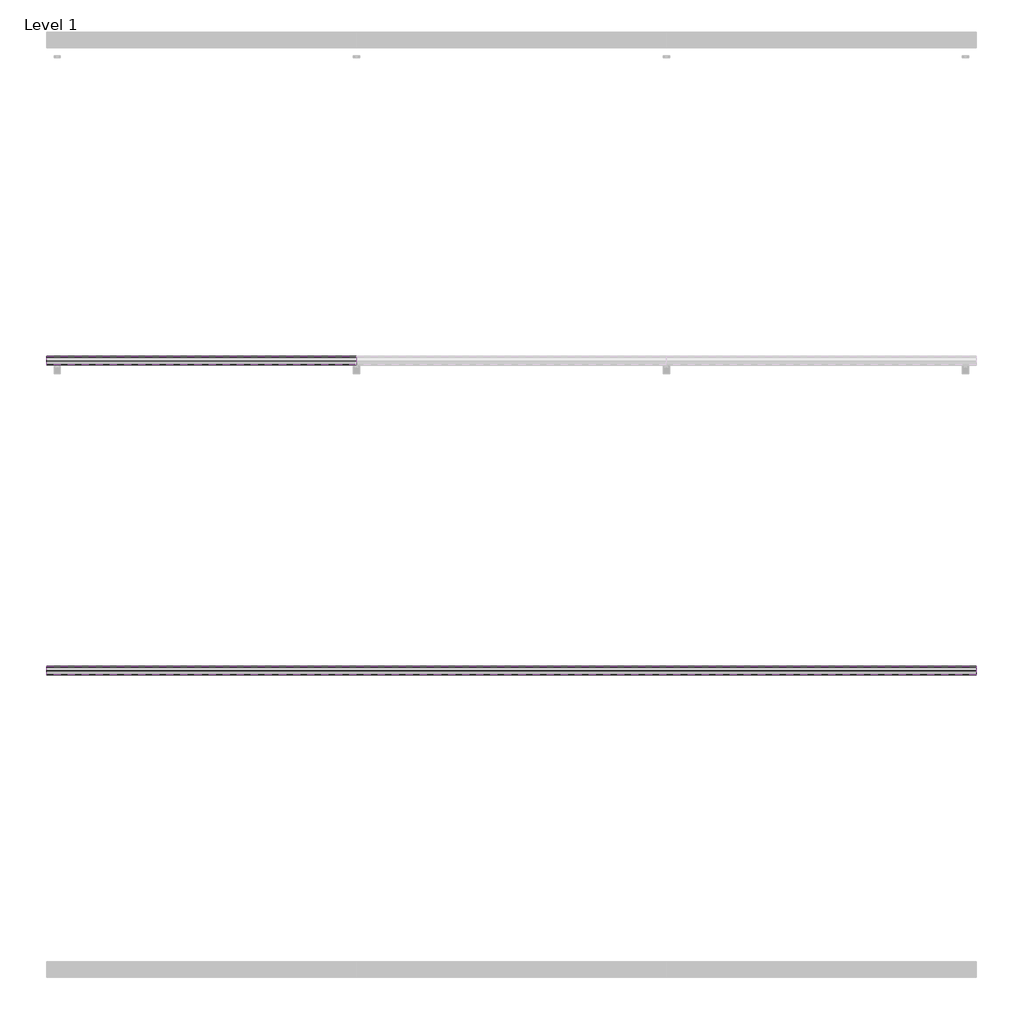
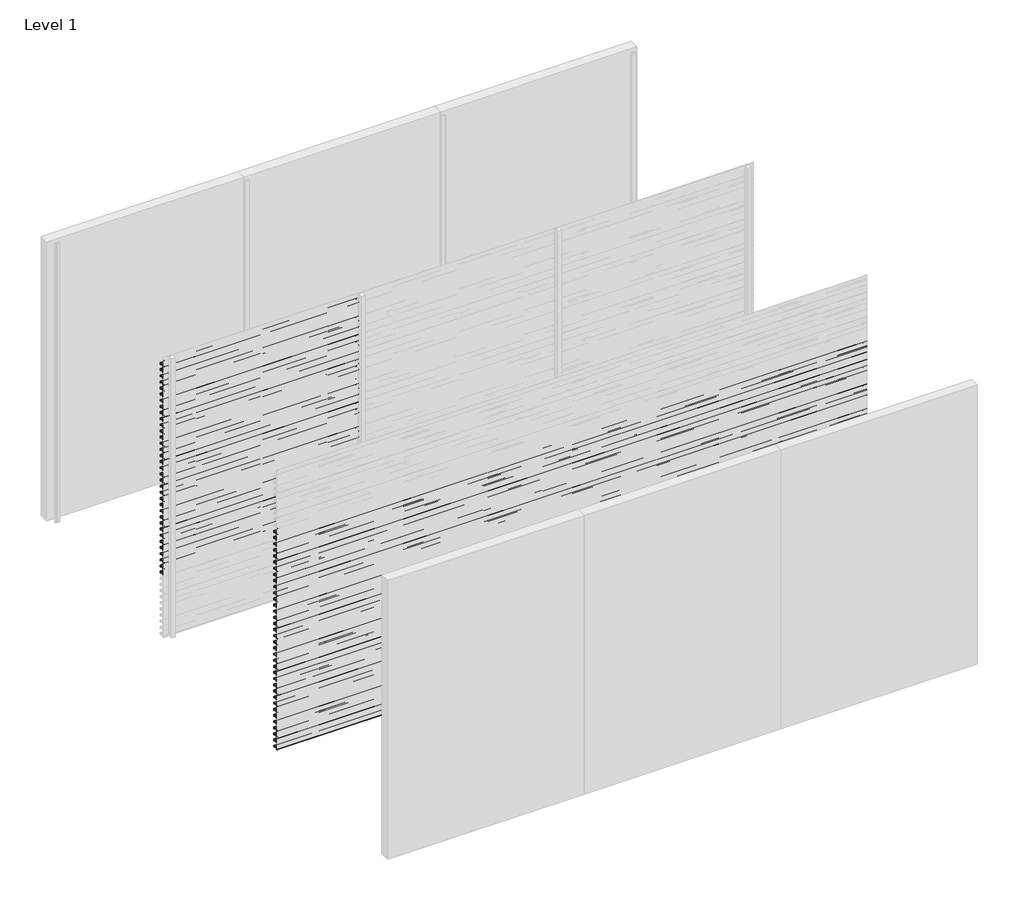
# One storey, part 13 of 27: 71 proxies.
"""IFC4 building model written with IfcOpenShell, lengths in millimetres."""

from ifc_helpers import new_model, si_unit, frame, origin, place, context, project, spatial, polyline, outline, extrude, element, save

model = new_model("IFC4")

# Units and contexts
model_context = context("Model", 3, world=origin())
ifc_project = project(units=[si_unit("LENGTHUNIT", "METRE", prefix="MILLI")], contexts=[model_context])

# Site, building, storey
site = spatial("IfcSite", under=ifc_project)
building = spatial("IfcBuilding", under=site)
storey = spatial("IfcBuildingStorey", under=building, Name="Level 1", Elevation=0.0)

# Proxies
placement = place(None, origin())
element("IfcBuildingElementProxy", 1, Name="Wall Sweeps", at=placement, inside=storey, context=model_context, shape_type="SweptSolid", body=[
    extrude(outline(polyline([(-29943.0, 2913.2), (-29943.0, 2893.5), (-29944.25, 2894.5866084), (-29944.25, 2912.4872415), (-29963.0322086, 2925.6010889), (-29995.1332975, 2893.5), (-29996.0525363, 2894.4192388), (-29964.1148087, 2926.3569665), (-29998.0, 2950.0158044), (-29998.0, 2970.0), (-29996.75, 2970.0), (-29996.75, 2950.7285629), (-29943.0, 2913.2)])), frame((0.0, 0.0, 0.0), z_axis=(1.0, 0.0, 0.0), x_axis=(0.0, 1.0, 0.0)), (0.0, 0.0, 1.0), 2000.0),
])
element("IfcBuildingElementProxy", 2, Name="Wall Sweeps", at=placement, inside=storey, context=model_context, shape_type="SweptSolid", body=[
    extrude(outline(polyline([(-29943.0, 2847.2), (-29943.0, 2827.5), (-29944.25, 2828.5866084), (-29944.25, 2846.4872415), (-29963.0322086, 2859.6010889), (-29995.1332975, 2827.5), (-29996.0525363, 2828.4192388), (-29964.1148087, 2860.3569665), (-29998.0, 2884.0158044), (-29998.0, 2904.0), (-29996.75, 2904.0), (-29996.75, 2884.7285629), (-29943.0, 2847.2)])), frame((0.0, 0.0, 0.0), z_axis=(1.0, 0.0, 0.0), x_axis=(0.0, 1.0, 0.0)), (0.0, 0.0, 1.0), 2000.0),
])
element("IfcBuildingElementProxy", 3, Name="Wall Sweeps", at=placement, inside=storey, context=model_context, shape_type="SweptSolid", body=[
    extrude(outline(polyline([(-29943.0, 2781.2), (-29943.0, 2761.5), (-29944.25, 2762.5866084), (-29944.25, 2780.4872415), (-29963.0322086, 2793.6010889), (-29995.1332975, 2761.5), (-29996.0525363, 2762.4192388), (-29964.1148087, 2794.3569665), (-29998.0, 2818.0158044), (-29998.0, 2838.0), (-29996.75, 2838.0), (-29996.75, 2818.7285629), (-29943.0, 2781.2)])), frame((0.0, 0.0, 0.0), z_axis=(1.0, 0.0, 0.0), x_axis=(0.0, 1.0, 0.0)), (0.0, 0.0, 1.0), 2000.0),
])
element("IfcBuildingElementProxy", 4, Name="Wall Sweeps", at=placement, inside=storey, context=model_context, shape_type="SweptSolid", body=[
    extrude(outline(polyline([(-29943.0, 2715.2), (-29943.0, 2695.5), (-29944.25, 2696.5866084), (-29944.25, 2714.4872415), (-29963.0322086, 2727.6010889), (-29995.1332975, 2695.5), (-29996.0525363, 2696.4192388), (-29964.1148087, 2728.3569665), (-29998.0, 2752.0158044), (-29998.0, 2772.0), (-29996.75, 2772.0), (-29996.75, 2752.7285629), (-29943.0, 2715.2)])), frame((0.0, 0.0, 0.0), z_axis=(1.0, 0.0, 0.0), x_axis=(0.0, 1.0, 0.0)), (0.0, 0.0, 1.0), 2000.0),
])
element("IfcBuildingElementProxy", 5, Name="Wall Sweeps", at=placement, inside=storey, context=model_context, shape_type="SweptSolid", body=[
    extrude(outline(polyline([(-29943.0, 2649.2), (-29943.0, 2629.5), (-29944.25, 2630.5866084), (-29944.25, 2648.4872415), (-29963.0322086, 2661.6010889), (-29995.1332975, 2629.5), (-29996.0525363, 2630.4192388), (-29964.1148087, 2662.3569665), (-29998.0, 2686.0158044), (-29998.0, 2706.0), (-29996.75, 2706.0), (-29996.75, 2686.7285629), (-29943.0, 2649.2)])), frame((0.0, 0.0, 0.0), z_axis=(1.0, 0.0, 0.0), x_axis=(0.0, 1.0, 0.0)), (0.0, 0.0, 1.0), 2000.0),
])
element("IfcBuildingElementProxy", 6, Name="Wall Sweeps", at=placement, inside=storey, context=model_context, shape_type="SweptSolid", body=[
    extrude(outline(polyline([(-29943.0, 2583.2), (-29943.0, 2563.5), (-29944.25, 2564.5866084), (-29944.25, 2582.4872415), (-29963.0322086, 2595.6010889), (-29995.1332975, 2563.5), (-29996.0525363, 2564.4192388), (-29964.1148087, 2596.3569665), (-29998.0, 2620.0158044), (-29998.0, 2640.0), (-29996.75, 2640.0), (-29996.75, 2620.7285629), (-29943.0, 2583.2)])), frame((0.0, 0.0, 0.0), z_axis=(1.0, 0.0, 0.0), x_axis=(0.0, 1.0, 0.0)), (0.0, 0.0, 1.0), 2000.0),
])
element("IfcBuildingElementProxy", 7, Name="Wall Sweeps", at=placement, inside=storey, context=model_context, shape_type="SweptSolid", body=[
    extrude(outline(polyline([(-29943.0, 2517.2), (-29943.0, 2497.5), (-29944.25, 2498.5866084), (-29944.25, 2516.4872415), (-29963.0322086, 2529.6010889), (-29995.1332975, 2497.5), (-29996.0525363, 2498.4192388), (-29964.1148087, 2530.3569665), (-29998.0, 2554.0158044), (-29998.0, 2574.0), (-29996.75, 2574.0), (-29996.75, 2554.7285629), (-29943.0, 2517.2)])), frame((0.0, 0.0, 0.0), z_axis=(1.0, 0.0, 0.0), x_axis=(0.0, 1.0, 0.0)), (0.0, 0.0, 1.0), 2000.0),
])
element("IfcBuildingElementProxy", 8, Name="Wall Sweeps", at=placement, inside=storey, context=model_context, shape_type="SweptSolid", body=[
    extrude(outline(polyline([(-29943.0, 2451.2), (-29943.0, 2431.5), (-29944.25, 2432.5866084), (-29944.25, 2450.4872415), (-29963.0322086, 2463.6010889), (-29995.1332975, 2431.5), (-29996.0525363, 2432.4192388), (-29964.1148087, 2464.3569665), (-29998.0, 2488.0158044), (-29998.0, 2508.0), (-29996.75, 2508.0), (-29996.75, 2488.7285629), (-29943.0, 2451.2)])), frame((0.0, 0.0, 0.0), z_axis=(1.0, 0.0, 0.0), x_axis=(0.0, 1.0, 0.0)), (0.0, 0.0, 1.0), 2000.0),
])
element("IfcBuildingElementProxy", 9, Name="Wall Sweeps", at=placement, inside=storey, context=model_context, shape_type="SweptSolid", body=[
    extrude(outline(polyline([(-29943.0, 2385.2), (-29943.0, 2365.5), (-29944.25, 2366.5866084), (-29944.25, 2384.4872415), (-29963.0322086, 2397.6010889), (-29995.1332975, 2365.5), (-29996.0525363, 2366.4192388), (-29964.1148087, 2398.3569665), (-29998.0, 2422.0158044), (-29998.0, 2442.0), (-29996.75, 2442.0), (-29996.75, 2422.7285629), (-29943.0, 2385.2)])), frame((0.0, 0.0, 0.0), z_axis=(1.0, 0.0, 0.0), x_axis=(0.0, 1.0, 0.0)), (0.0, 0.0, 1.0), 2000.0),
])
element("IfcBuildingElementProxy", 10, Name="Wall Sweeps", at=placement, inside=storey, context=model_context, shape_type="SweptSolid", body=[
    extrude(outline(polyline([(-29943.0, 2319.2), (-29943.0, 2299.5), (-29944.25, 2300.5866084), (-29944.25, 2318.4872415), (-29963.0322086, 2331.6010889), (-29995.1332975, 2299.5), (-29996.0525363, 2300.4192388), (-29964.1148087, 2332.3569665), (-29998.0, 2356.0158044), (-29998.0, 2376.0), (-29996.75, 2376.0), (-29996.75, 2356.7285629), (-29943.0, 2319.2)])), frame((0.0, 0.0, 0.0), z_axis=(1.0, 0.0, 0.0), x_axis=(0.0, 1.0, 0.0)), (0.0, 0.0, 1.0), 2000.0),
])
element("IfcBuildingElementProxy", 11, Name="Wall Sweeps", at=placement, inside=storey, context=model_context, shape_type="SweptSolid", body=[
    extrude(outline(polyline([(-29943.0, 2253.2), (-29943.0, 2233.5), (-29944.25, 2234.5866084), (-29944.25, 2252.4872415), (-29963.0322086, 2265.6010889), (-29995.1332975, 2233.5), (-29996.0525363, 2234.4192388), (-29964.1148087, 2266.3569665), (-29998.0, 2290.0158044), (-29998.0, 2310.0), (-29996.75, 2310.0), (-29996.75, 2290.7285629), (-29943.0, 2253.2)])), frame((0.0, 0.0, 0.0), z_axis=(1.0, 0.0, 0.0), x_axis=(0.0, 1.0, 0.0)), (0.0, 0.0, 1.0), 2000.0),
])
element("IfcBuildingElementProxy", 12, Name="Wall Sweeps", at=placement, inside=storey, context=model_context, shape_type="SweptSolid", body=[
    extrude(outline(polyline([(-29943.0, 2187.2), (-29943.0, 2167.5), (-29944.25, 2168.5866084), (-29944.25, 2186.4872415), (-29963.0322086, 2199.6010889), (-29995.1332975, 2167.5), (-29996.0525363, 2168.4192388), (-29964.1148087, 2200.3569665), (-29998.0, 2224.0158044), (-29998.0, 2244.0), (-29996.75, 2244.0), (-29996.75, 2224.7285629), (-29943.0, 2187.2)])), frame((0.0, 0.0, 0.0), z_axis=(1.0, 0.0, 0.0), x_axis=(0.0, 1.0, 0.0)), (0.0, 0.0, 1.0), 2000.0),
])
element("IfcBuildingElementProxy", 13, Name="Wall Sweeps", at=placement, inside=storey, context=model_context, shape_type="SweptSolid", body=[
    extrude(outline(polyline([(-29943.0, 2121.2), (-29943.0, 2101.5), (-29944.25, 2102.5866084), (-29944.25, 2120.4872415), (-29963.0322086, 2133.6010889), (-29995.1332975, 2101.5), (-29996.0525363, 2102.4192388), (-29964.1148087, 2134.3569665), (-29998.0, 2158.0158044), (-29998.0, 2178.0), (-29996.75, 2178.0), (-29996.75, 2158.7285629), (-29943.0, 2121.2)])), frame((0.0, 0.0, 0.0), z_axis=(1.0, 0.0, 0.0), x_axis=(0.0, 1.0, 0.0)), (0.0, 0.0, 1.0), 2000.0),
])
element("IfcBuildingElementProxy", 14, Name="Wall Sweeps", at=placement, inside=storey, context=model_context, shape_type="SweptSolid", body=[
    extrude(outline(polyline([(-29943.0, 2055.2), (-29943.0, 2035.5), (-29944.25, 2036.5866084), (-29944.25, 2054.4872415), (-29963.0322086, 2067.6010889), (-29995.1332975, 2035.5), (-29996.0525363, 2036.4192388), (-29964.1148087, 2068.3569665), (-29998.0, 2092.0158044), (-29998.0, 2112.0), (-29996.75, 2112.0), (-29996.75, 2092.7285629), (-29943.0, 2055.2)])), frame((0.0, 0.0, 0.0), z_axis=(1.0, 0.0, 0.0), x_axis=(0.0, 1.0, 0.0)), (0.0, 0.0, 1.0), 2000.0),
])
element("IfcBuildingElementProxy", 15, Name="Wall Sweeps", at=placement, inside=storey, context=model_context, shape_type="SweptSolid", body=[
    extrude(outline(polyline([(-29943.0, 1989.2), (-29943.0, 1969.5), (-29944.25, 1970.5866084), (-29944.25, 1988.4872415), (-29963.0322086, 2001.6010889), (-29995.1332975, 1969.5), (-29996.0525363, 1970.4192388), (-29964.1148087, 2002.3569665), (-29998.0, 2026.0158044), (-29998.0, 2046.0), (-29996.75, 2046.0), (-29996.75, 2026.7285629), (-29943.0, 1989.2)])), frame((0.0, 0.0, 0.0), z_axis=(1.0, 0.0, 0.0), x_axis=(0.0, 1.0, 0.0)), (0.0, 0.0, 1.0), 2000.0),
])
element("IfcBuildingElementProxy", 16, Name="Wall Sweeps", at=placement, inside=storey, context=model_context, shape_type="SweptSolid", body=[
    extrude(outline(polyline([(-29943.0, 1923.2), (-29943.0, 1903.5), (-29944.25, 1904.5866084), (-29944.25, 1922.4872415), (-29963.0322086, 1935.6010889), (-29995.1332975, 1903.5), (-29996.0525363, 1904.4192388), (-29964.1148087, 1936.3569665), (-29998.0, 1960.0158044), (-29998.0, 1980.0), (-29996.75, 1980.0), (-29996.75, 1960.7285629), (-29943.0, 1923.2)])), frame((0.0, 0.0, 0.0), z_axis=(1.0, 0.0, 0.0), x_axis=(0.0, 1.0, 0.0)), (0.0, 0.0, 1.0), 2000.0),
])
element("IfcBuildingElementProxy", 17, Name="Wall Sweeps", at=placement, inside=storey, context=model_context, shape_type="SweptSolid", body=[
    extrude(outline(polyline([(-29943.0, 1857.2), (-29943.0, 1837.5), (-29944.25, 1838.5866084), (-29944.25, 1856.4872415), (-29963.0322086, 1869.6010889), (-29995.1332975, 1837.5), (-29996.0525363, 1838.4192388), (-29964.1148087, 1870.3569665), (-29998.0, 1894.0158044), (-29998.0, 1914.0), (-29996.75, 1914.0), (-29996.75, 1894.7285629), (-29943.0, 1857.2)])), frame((0.0, 0.0, 0.0), z_axis=(1.0, 0.0, 0.0), x_axis=(0.0, 1.0, 0.0)), (0.0, 0.0, 1.0), 2000.0),
])
element("IfcBuildingElementProxy", 18, Name="Wall Sweeps", at=placement, inside=storey, context=model_context, shape_type="SweptSolid", body=[
    extrude(outline(polyline([(-29943.0, 1791.2), (-29943.0, 1771.5), (-29944.25, 1772.5866084), (-29944.25, 1790.4872415), (-29963.0322086, 1803.6010889), (-29995.1332975, 1771.5), (-29996.0525363, 1772.4192388), (-29964.1148087, 1804.3569665), (-29998.0, 1828.0158044), (-29998.0, 1848.0), (-29996.75, 1848.0), (-29996.75, 1828.7285629), (-29943.0, 1791.2)])), frame((0.0, 0.0, 0.0), z_axis=(1.0, 0.0, 0.0), x_axis=(0.0, 1.0, 0.0)), (0.0, 0.0, 1.0), 2000.0),
])
element("IfcBuildingElementProxy", 19, Name="Wall Sweeps", at=placement, inside=storey, context=model_context, shape_type="SweptSolid", body=[
    extrude(outline(polyline([(-29943.0, 1725.2), (-29943.0, 1705.5), (-29944.25, 1706.5866084), (-29944.25, 1724.4872415), (-29963.0322086, 1737.6010889), (-29995.1332975, 1705.5), (-29996.0525363, 1706.4192388), (-29964.1148087, 1738.3569665), (-29998.0, 1762.0158044), (-29998.0, 1782.0), (-29996.75, 1782.0), (-29996.75, 1762.7285629), (-29943.0, 1725.2)])), frame((0.0, 0.0, 0.0), z_axis=(1.0, 0.0, 0.0), x_axis=(0.0, 1.0, 0.0)), (0.0, 0.0, 1.0), 2000.0),
])
element("IfcBuildingElementProxy", 20, Name="Wall Sweeps", at=placement, inside=storey, context=model_context, shape_type="SweptSolid", body=[
    extrude(outline(polyline([(-29943.0, 1659.2), (-29943.0, 1639.5), (-29944.25, 1640.5866084), (-29944.25, 1658.4872415), (-29963.0322086, 1671.6010889), (-29995.1332975, 1639.5), (-29996.0525363, 1640.4192388), (-29964.1148087, 1672.3569665), (-29998.0, 1696.0158044), (-29998.0, 1716.0), (-29996.75, 1716.0), (-29996.75, 1696.7285629), (-29943.0, 1659.2)])), frame((0.0, 0.0, 0.0), z_axis=(1.0, 0.0, 0.0), x_axis=(0.0, 1.0, 0.0)), (0.0, 0.0, 1.0), 2000.0),
])
element("IfcBuildingElementProxy", 21, Name="Wall Sweeps", at=placement, inside=storey, context=model_context, shape_type="SweptSolid", body=[
    extrude(outline(polyline([(-29943.0, 1593.2), (-29943.0, 1573.5), (-29944.25, 1574.5866084), (-29944.25, 1592.4872415), (-29963.0322086, 1605.6010889), (-29995.1332975, 1573.5), (-29996.0525363, 1574.4192388), (-29964.1148087, 1606.3569665), (-29998.0, 1630.0158044), (-29998.0, 1650.0), (-29996.75, 1650.0), (-29996.75, 1630.7285629), (-29943.0, 1593.2)])), frame((0.0, 0.0, 0.0), z_axis=(1.0, 0.0, 0.0), x_axis=(0.0, 1.0, 0.0)), (0.0, 0.0, 1.0), 2000.0),
])
element("IfcBuildingElementProxy", 22, Name="Wall Sweeps", at=placement, inside=storey, context=model_context, shape_type="SweptSolid", body=[
    extrude(outline(polyline([(-29943.0, 1527.2), (-29943.0, 1507.5), (-29944.25, 1508.5866084), (-29944.25, 1526.4872415), (-29963.0322086, 1539.6010889), (-29995.1332975, 1507.5), (-29996.0525363, 1508.4192388), (-29964.1148087, 1540.3569665), (-29998.0, 1564.0158044), (-29998.0, 1584.0), (-29996.75, 1584.0), (-29996.75, 1564.7285629), (-29943.0, 1527.2)])), frame((0.0, 0.0, 0.0), z_axis=(1.0, 0.0, 0.0), x_axis=(0.0, 1.0, 0.0)), (0.0, 0.0, 1.0), 2000.0),
])
element("IfcBuildingElementProxy", 23, Name="Wall Sweeps", at=placement, inside=storey, context=model_context, shape_type="SweptSolid", body=[
    extrude(outline(polyline([(-29943.0, 1461.2), (-29943.0, 1441.5), (-29944.25, 1442.5866084), (-29944.25, 1460.4872415), (-29963.0322086, 1473.6010889), (-29995.1332975, 1441.5), (-29996.0525363, 1442.4192388), (-29964.1148087, 1474.3569665), (-29998.0, 1498.0158044), (-29998.0, 1518.0), (-29996.75, 1518.0), (-29996.75, 1498.7285629), (-29943.0, 1461.2)])), frame((0.0, 0.0, 0.0), z_axis=(1.0, 0.0, 0.0), x_axis=(0.0, 1.0, 0.0)), (0.0, 0.0, 1.0), 2000.0),
])
element("IfcBuildingElementProxy", 24, Name="Wall Sweeps", at=placement, inside=storey, context=model_context, shape_type="SweptSolid", body=[
    extrude(outline(polyline([(-29943.0, 1395.2), (-29943.0, 1375.5), (-29944.25, 1376.5866084), (-29944.25, 1394.4872415), (-29963.0322086, 1407.6010889), (-29995.1332975, 1375.5), (-29996.0525363, 1376.4192388), (-29964.1148087, 1408.3569665), (-29998.0, 1432.0158044), (-29998.0, 1452.0), (-29996.75, 1452.0), (-29996.75, 1432.7285629), (-29943.0, 1395.2)])), frame((0.0, 0.0, 0.0), z_axis=(1.0, 0.0, 0.0), x_axis=(0.0, 1.0, 0.0)), (0.0, 0.0, 1.0), 2000.0),
])
element("IfcBuildingElementProxy", 25, Name="Wall Sweeps", at=placement, inside=storey, context=model_context, shape_type="SweptSolid", body=[
    extrude(outline(polyline([(-29943.0, 1329.2), (-29943.0, 1309.5), (-29944.25, 1310.5866084), (-29944.25, 1328.4872415), (-29963.0322086, 1341.6010889), (-29995.1332975, 1309.5), (-29996.0525363, 1310.4192388), (-29964.1148087, 1342.3569665), (-29998.0, 1366.0158044), (-29998.0, 1386.0), (-29996.75, 1386.0), (-29996.75, 1366.7285629), (-29943.0, 1329.2)])), frame((0.0, 0.0, 0.0), z_axis=(1.0, 0.0, 0.0), x_axis=(0.0, 1.0, 0.0)), (0.0, 0.0, 1.0), 2000.0),
])
element("IfcBuildingElementProxy", 26, Name="Wall Sweeps", at=placement, inside=storey, context=model_context, shape_type="SweptSolid", body=[
    extrude(outline(polyline([(-29943.0, 1263.2), (-29943.0, 1243.5), (-29944.25, 1244.5866084), (-29944.25, 1262.4872415), (-29963.0322086, 1275.6010889), (-29995.1332975, 1243.5), (-29996.0525363, 1244.4192388), (-29964.1148087, 1276.3569665), (-29998.0, 1300.0158044), (-29998.0, 1320.0), (-29996.75, 1320.0), (-29996.75, 1300.7285629), (-29943.0, 1263.2)])), frame((0.0, 0.0, 0.0), z_axis=(1.0, 0.0, 0.0), x_axis=(0.0, 1.0, 0.0)), (0.0, 0.0, 1.0), 2000.0),
])
element("IfcBuildingElementProxy", 27, Name="Wall Sweeps", at=placement, inside=storey, context=model_context, shape_type="SweptSolid", body=[
    extrude(outline(polyline([(-29943.0, 1197.2), (-29943.0, 1177.5), (-29944.25, 1178.5866084), (-29944.25, 1196.4872415), (-29963.0322086, 1209.6010889), (-29995.1332975, 1177.5), (-29996.0525363, 1178.4192388), (-29964.1148087, 1210.3569665), (-29998.0, 1234.0158044), (-29998.0, 1254.0), (-29996.75, 1254.0), (-29996.75, 1234.7285629), (-29943.0, 1197.2)])), frame((0.0, 0.0, 0.0), z_axis=(1.0, 0.0, 0.0), x_axis=(0.0, 1.0, 0.0)), (0.0, 0.0, 1.0), 2000.0),
])
element("IfcBuildingElementProxy", 28, Name="Wall Sweeps", at=placement, inside=storey, context=model_context, shape_type="SweptSolid", body=[
    extrude(outline(polyline([(-29943.0, 1131.2), (-29943.0, 1111.5), (-29944.25, 1112.5866084), (-29944.25, 1130.4872415), (-29963.0322086, 1143.6010889), (-29995.1332975, 1111.5), (-29996.0525363, 1112.4192388), (-29964.1148087, 1144.3569665), (-29998.0, 1168.0158044), (-29998.0, 1188.0), (-29996.75, 1188.0), (-29996.75, 1168.7285629), (-29943.0, 1131.2)])), frame((0.0, 0.0, 0.0), z_axis=(1.0, 0.0, 0.0), x_axis=(0.0, 1.0, 0.0)), (0.0, 0.0, 1.0), 2000.0),
])
element("IfcBuildingElementProxy", 29, Name="Wall Sweeps", at=placement, inside=storey, context=model_context, shape_type="SweptSolid", body=[
    extrude(outline(polyline([(-29943.0, 1065.2), (-29943.0, 1045.5), (-29944.25, 1046.5866084), (-29944.25, 1064.4872415), (-29963.0322086, 1077.6010889), (-29995.1332975, 1045.5), (-29996.0525363, 1046.4192388), (-29964.1148087, 1078.3569665), (-29998.0, 1102.0158044), (-29998.0, 1122.0), (-29996.75, 1122.0), (-29996.75, 1102.7285629), (-29943.0, 1065.2)])), frame((0.0, 0.0, 0.0), z_axis=(1.0, 0.0, 0.0), x_axis=(0.0, 1.0, 0.0)), (0.0, 0.0, 1.0), 2000.0),
])
element("IfcBuildingElementProxy", 30, Name="Wall Sweeps", at=placement, inside=storey, context=model_context, shape_type="SweptSolid", body=[
    extrude(outline(polyline([(-29943.0, 999.2), (-29943.0, 979.5), (-29944.25, 980.5866084), (-29944.25, 998.4872415), (-29963.0322086, 1011.6010889), (-29995.1332975, 979.5), (-29996.0525363, 980.4192388), (-29964.1148087, 1012.3569665), (-29998.0, 1036.0158044), (-29998.0, 1056.0), (-29996.75, 1056.0), (-29996.75, 1036.7285629), (-29943.0, 999.2)])), frame((0.0, 0.0, 0.0), z_axis=(1.0, 0.0, 0.0), x_axis=(0.0, 1.0, 0.0)), (0.0, 0.0, 1.0), 2000.0),
])
element("IfcBuildingElementProxy", 31, Name="Wall Sweeps", at=placement, inside=storey, context=model_context, shape_type="SweptSolid", body=[
    extrude(outline(polyline([(-29943.0, 933.2), (-29943.0, 913.5), (-29944.25, 914.5866084), (-29944.25, 932.4872415), (-29963.0322086, 945.6010889), (-29995.1332975, 913.5), (-29996.0525363, 914.4192388), (-29964.1148087, 946.3569665), (-29998.0, 970.0158044), (-29998.0, 990.0), (-29996.75, 990.0), (-29996.75, 970.7285629), (-29943.0, 933.2)])), frame((0.0, 0.0, 0.0), z_axis=(1.0, 0.0, 0.0), x_axis=(0.0, 1.0, 0.0)), (0.0, 0.0, 1.0), 2000.0),
])
element("IfcBuildingElementProxy", 32, Name="Wall Sweeps", at=placement, inside=storey, context=model_context, shape_type="SweptSolid", body=[
    extrude(outline(polyline([(-29943.0, 867.2), (-29943.0, 847.5), (-29944.25, 848.5866084), (-29944.25, 866.4872415), (-29963.0322086, 879.6010889), (-29995.1332975, 847.5), (-29996.0525363, 848.4192388), (-29964.1148087, 880.3569665), (-29998.0, 904.0158044), (-29998.0, 924.0), (-29996.75, 924.0), (-29996.75, 904.7285629), (-29943.0, 867.2)])), frame((0.0, 0.0, 0.0), z_axis=(1.0, 0.0, 0.0), x_axis=(0.0, 1.0, 0.0)), (0.0, 0.0, 1.0), 2000.0),
])
element("IfcBuildingElementProxy", 33, Name="Wall Sweeps", at=placement, inside=storey, context=model_context, shape_type="SweptSolid", body=[
    extrude(outline(polyline([(-29943.0, 801.2), (-29943.0, 781.5), (-29944.25, 782.5866084), (-29944.25, 800.4872415), (-29963.0322086, 813.6010889), (-29995.1332975, 781.5), (-29996.0525363, 782.4192388), (-29964.1148087, 814.3569665), (-29998.0, 838.0158044), (-29998.0, 858.0), (-29996.75, 858.0), (-29996.75, 838.7285629), (-29943.0, 801.2)])), frame((0.0, 0.0, 0.0), z_axis=(1.0, 0.0, 0.0), x_axis=(0.0, 1.0, 0.0)), (0.0, 0.0, 1.0), 2000.0),
])
element("IfcBuildingElementProxy", 34, Name="Wall Sweeps", at=placement, inside=storey, context=model_context, shape_type="SweptSolid", body=[
    extrude(outline(polyline([(-29943.0, 735.2), (-29943.0, 715.5), (-29944.25, 716.5866084), (-29944.25, 734.4872415), (-29963.0322086, 747.6010889), (-29995.1332975, 715.5), (-29996.0525363, 716.4192388), (-29964.1148087, 748.3569665), (-29998.0, 772.0158044), (-29998.0, 792.0), (-29996.75, 792.0), (-29996.75, 772.7285629), (-29943.0, 735.2)])), frame((0.0, 0.0, 0.0), z_axis=(1.0, 0.0, 0.0), x_axis=(0.0, 1.0, 0.0)), (0.0, 0.0, 1.0), 2000.0),
])
element("IfcBuildingElementProxy", 35, Name="Wall Sweeps", at=placement, inside=storey, context=model_context, shape_type="SweptSolid", body=[
    extrude(outline(polyline([(-29943.0, 669.2), (-29943.0, 649.5), (-29944.25, 650.5866084), (-29944.25, 668.4872415), (-29963.0322086, 681.6010889), (-29995.1332975, 649.5), (-29996.0525363, 650.4192388), (-29964.1148087, 682.3569665), (-29998.0, 706.0158044), (-29998.0, 726.0), (-29996.75, 726.0), (-29996.75, 706.7285629), (-29943.0, 669.2)])), frame((0.0, 0.0, 0.0), z_axis=(1.0, 0.0, 0.0), x_axis=(0.0, 1.0, 0.0)), (0.0, 0.0, 1.0), 2000.0),
])
element("IfcBuildingElementProxy", 36, Name="Wall Sweeps", at=placement, inside=storey, context=model_context, shape_type="SweptSolid", body=[
    extrude(outline(polyline([(-31943.0, 2319.2), (-31943.0, 2299.5), (-31944.25, 2300.5866084), (-31944.25, 2318.4872415), (-31963.0322086, 2331.6010889), (-31995.1332975, 2299.5), (-31996.0525363, 2300.4192388), (-31964.1148087, 2332.3569665), (-31998.0, 2356.0158044), (-31998.0, 2376.0), (-31996.75, 2376.0), (-31996.75, 2356.7285629), (-31943.0, 2319.2)])), frame((0.0, 0.0, 0.0), z_axis=(1.0, 0.0, 0.0), x_axis=(0.0, 1.0, 0.0)), (0.0, 0.0, 1.0), 6000.0),
])
element("IfcBuildingElementProxy", 37, Name="Wall Sweeps", at=placement, inside=storey, context=model_context, shape_type="SweptSolid", body=[
    extrude(outline(polyline([(-31943.0, 2253.2), (-31943.0, 2233.5), (-31944.25, 2234.5866084), (-31944.25, 2252.4872415), (-31963.0322086, 2265.6010889), (-31995.1332975, 2233.5), (-31996.0525363, 2234.4192388), (-31964.1148087, 2266.3569665), (-31998.0, 2290.0158044), (-31998.0, 2310.0), (-31996.75, 2310.0), (-31996.75, 2290.7285629), (-31943.0, 2253.2)])), frame((0.0, 0.0, 0.0), z_axis=(1.0, 0.0, 0.0), x_axis=(0.0, 1.0, 0.0)), (0.0, 0.0, 1.0), 6000.0),
])
element("IfcBuildingElementProxy", 38, Name="Wall Sweeps", at=placement, inside=storey, context=model_context, shape_type="SweptSolid", body=[
    extrude(outline(polyline([(-31943.0, 2187.2), (-31943.0, 2167.5), (-31944.25, 2168.5866084), (-31944.25, 2186.4872415), (-31963.0322086, 2199.6010889), (-31995.1332975, 2167.5), (-31996.0525363, 2168.4192388), (-31964.1148087, 2200.3569665), (-31998.0, 2224.0158044), (-31998.0, 2244.0), (-31996.75, 2244.0), (-31996.75, 2224.7285629), (-31943.0, 2187.2)])), frame((0.0, 0.0, 0.0), z_axis=(1.0, 0.0, 0.0), x_axis=(0.0, 1.0, 0.0)), (0.0, 0.0, 1.0), 6000.0),
])
element("IfcBuildingElementProxy", 39, Name="Wall Sweeps", at=placement, inside=storey, context=model_context, shape_type="SweptSolid", body=[
    extrude(outline(polyline([(-31943.0, 2121.2), (-31943.0, 2101.5), (-31944.25, 2102.5866084), (-31944.25, 2120.4872415), (-31963.0322086, 2133.6010889), (-31995.1332975, 2101.5), (-31996.0525363, 2102.4192388), (-31964.1148087, 2134.3569665), (-31998.0, 2158.0158044), (-31998.0, 2178.0), (-31996.75, 2178.0), (-31996.75, 2158.7285629), (-31943.0, 2121.2)])), frame((0.0, 0.0, 0.0), z_axis=(1.0, 0.0, 0.0), x_axis=(0.0, 1.0, 0.0)), (0.0, 0.0, 1.0), 6000.0),
])
element("IfcBuildingElementProxy", 40, Name="Wall Sweeps", at=placement, inside=storey, context=model_context, shape_type="SweptSolid", body=[
    extrude(outline(polyline([(-31943.0, 2055.2), (-31943.0, 2035.5), (-31944.25, 2036.5866084), (-31944.25, 2054.4872415), (-31963.0322086, 2067.6010889), (-31995.1332975, 2035.5), (-31996.0525363, 2036.4192388), (-31964.1148087, 2068.3569665), (-31998.0, 2092.0158044), (-31998.0, 2112.0), (-31996.75, 2112.0), (-31996.75, 2092.7285629), (-31943.0, 2055.2)])), frame((0.0, 0.0, 0.0), z_axis=(1.0, 0.0, 0.0), x_axis=(0.0, 1.0, 0.0)), (0.0, 0.0, 1.0), 6000.0),
])
element("IfcBuildingElementProxy", 41, Name="Wall Sweeps", at=placement, inside=storey, context=model_context, shape_type="SweptSolid", body=[
    extrude(outline(polyline([(-31943.0, 1989.2), (-31943.0, 1969.5), (-31944.25, 1970.5866084), (-31944.25, 1988.4872415), (-31963.0322086, 2001.6010889), (-31995.1332975, 1969.5), (-31996.0525363, 1970.4192388), (-31964.1148087, 2002.3569665), (-31998.0, 2026.0158044), (-31998.0, 2046.0), (-31996.75, 2046.0), (-31996.75, 2026.7285629), (-31943.0, 1989.2)])), frame((0.0, 0.0, 0.0), z_axis=(1.0, 0.0, 0.0), x_axis=(0.0, 1.0, 0.0)), (0.0, 0.0, 1.0), 6000.0),
])
element("IfcBuildingElementProxy", 42, Name="Wall Sweeps", at=placement, inside=storey, context=model_context, shape_type="SweptSolid", body=[
    extrude(outline(polyline([(-31943.0, 1923.2), (-31943.0, 1903.5), (-31944.25, 1904.5866084), (-31944.25, 1922.4872415), (-31963.0322086, 1935.6010889), (-31995.1332975, 1903.5), (-31996.0525363, 1904.4192388), (-31964.1148087, 1936.3569665), (-31998.0, 1960.0158044), (-31998.0, 1980.0), (-31996.75, 1980.0), (-31996.75, 1960.7285629), (-31943.0, 1923.2)])), frame((0.0, 0.0, 0.0), z_axis=(1.0, 0.0, 0.0), x_axis=(0.0, 1.0, 0.0)), (0.0, 0.0, 1.0), 6000.0),
])
element("IfcBuildingElementProxy", 43, Name="Wall Sweeps", at=placement, inside=storey, context=model_context, shape_type="SweptSolid", body=[
    extrude(outline(polyline([(-31943.0, 1857.2), (-31943.0, 1837.5), (-31944.25, 1838.5866084), (-31944.25, 1856.4872415), (-31963.0322086, 1869.6010889), (-31995.1332975, 1837.5), (-31996.0525363, 1838.4192388), (-31964.1148087, 1870.3569665), (-31998.0, 1894.0158044), (-31998.0, 1914.0), (-31996.75, 1914.0), (-31996.75, 1894.7285629), (-31943.0, 1857.2)])), frame((0.0, 0.0, 0.0), z_axis=(1.0, 0.0, 0.0), x_axis=(0.0, 1.0, 0.0)), (0.0, 0.0, 1.0), 6000.0),
])
element("IfcBuildingElementProxy", 44, Name="Wall Sweeps", at=placement, inside=storey, context=model_context, shape_type="SweptSolid", body=[
    extrude(outline(polyline([(-31943.0, 1791.2), (-31943.0, 1771.5), (-31944.25, 1772.5866084), (-31944.25, 1790.4872415), (-31963.0322086, 1803.6010889), (-31995.1332975, 1771.5), (-31996.0525363, 1772.4192388), (-31964.1148087, 1804.3569665), (-31998.0, 1828.0158044), (-31998.0, 1848.0), (-31996.75, 1848.0), (-31996.75, 1828.7285629), (-31943.0, 1791.2)])), frame((0.0, 0.0, 0.0), z_axis=(1.0, 0.0, 0.0), x_axis=(0.0, 1.0, 0.0)), (0.0, 0.0, 1.0), 6000.0),
])
element("IfcBuildingElementProxy", 45, Name="Wall Sweeps", at=placement, inside=storey, context=model_context, shape_type="SweptSolid", body=[
    extrude(outline(polyline([(-31943.0, 1725.2), (-31943.0, 1705.5), (-31944.25, 1706.5866084), (-31944.25, 1724.4872415), (-31963.0322086, 1737.6010889), (-31995.1332975, 1705.5), (-31996.0525363, 1706.4192388), (-31964.1148087, 1738.3569665), (-31998.0, 1762.0158044), (-31998.0, 1782.0), (-31996.75, 1782.0), (-31996.75, 1762.7285629), (-31943.0, 1725.2)])), frame((0.0, 0.0, 0.0), z_axis=(1.0, 0.0, 0.0), x_axis=(0.0, 1.0, 0.0)), (0.0, 0.0, 1.0), 6000.0),
])
element("IfcBuildingElementProxy", 46, Name="Wall Sweeps", at=placement, inside=storey, context=model_context, shape_type="SweptSolid", body=[
    extrude(outline(polyline([(-31943.0, 1659.2), (-31943.0, 1639.5), (-31944.25, 1640.5866084), (-31944.25, 1658.4872415), (-31963.0322086, 1671.6010889), (-31995.1332975, 1639.5), (-31996.0525363, 1640.4192388), (-31964.1148087, 1672.3569665), (-31998.0, 1696.0158044), (-31998.0, 1716.0), (-31996.75, 1716.0), (-31996.75, 1696.7285629), (-31943.0, 1659.2)])), frame((0.0, 0.0, 0.0), z_axis=(1.0, 0.0, 0.0), x_axis=(0.0, 1.0, 0.0)), (0.0, 0.0, 1.0), 6000.0),
])
element("IfcBuildingElementProxy", 47, Name="Wall Sweeps", at=placement, inside=storey, context=model_context, shape_type="SweptSolid", body=[
    extrude(outline(polyline([(-31943.0, 1593.2), (-31943.0, 1573.5), (-31944.25, 1574.5866084), (-31944.25, 1592.4872415), (-31963.0322086, 1605.6010889), (-31995.1332975, 1573.5), (-31996.0525363, 1574.4192388), (-31964.1148087, 1606.3569665), (-31998.0, 1630.0158044), (-31998.0, 1650.0), (-31996.75, 1650.0), (-31996.75, 1630.7285629), (-31943.0, 1593.2)])), frame((0.0, 0.0, 0.0), z_axis=(1.0, 0.0, 0.0), x_axis=(0.0, 1.0, 0.0)), (0.0, 0.0, 1.0), 6000.0),
])
element("IfcBuildingElementProxy", 48, Name="Wall Sweeps", at=placement, inside=storey, context=model_context, shape_type="SweptSolid", body=[
    extrude(outline(polyline([(-31943.0, 1527.2), (-31943.0, 1507.5), (-31944.25, 1508.5866084), (-31944.25, 1526.4872415), (-31963.0322086, 1539.6010889), (-31995.1332975, 1507.5), (-31996.0525363, 1508.4192388), (-31964.1148087, 1540.3569665), (-31998.0, 1564.0158044), (-31998.0, 1584.0), (-31996.75, 1584.0), (-31996.75, 1564.7285629), (-31943.0, 1527.2)])), frame((0.0, 0.0, 0.0), z_axis=(1.0, 0.0, 0.0), x_axis=(0.0, 1.0, 0.0)), (0.0, 0.0, 1.0), 6000.0),
])
element("IfcBuildingElementProxy", 49, Name="Wall Sweeps", at=placement, inside=storey, context=model_context, shape_type="SweptSolid", body=[
    extrude(outline(polyline([(-31943.0, 1461.2), (-31943.0, 1441.5), (-31944.25, 1442.5866084), (-31944.25, 1460.4872415), (-31963.0322086, 1473.6010889), (-31995.1332975, 1441.5), (-31996.0525363, 1442.4192388), (-31964.1148087, 1474.3569665), (-31998.0, 1498.0158044), (-31998.0, 1518.0), (-31996.75, 1518.0), (-31996.75, 1498.7285629), (-31943.0, 1461.2)])), frame((0.0, 0.0, 0.0), z_axis=(1.0, 0.0, 0.0), x_axis=(0.0, 1.0, 0.0)), (0.0, 0.0, 1.0), 6000.0),
])
element("IfcBuildingElementProxy", 50, Name="Wall Sweeps", at=placement, inside=storey, context=model_context, shape_type="SweptSolid", body=[
    extrude(outline(polyline([(-31943.0, 1395.2), (-31943.0, 1375.5), (-31944.25, 1376.5866084), (-31944.25, 1394.4872415), (-31963.0322086, 1407.6010889), (-31995.1332975, 1375.5), (-31996.0525363, 1376.4192388), (-31964.1148087, 1408.3569665), (-31998.0, 1432.0158044), (-31998.0, 1452.0), (-31996.75, 1452.0), (-31996.75, 1432.7285629), (-31943.0, 1395.2)])), frame((0.0, 0.0, 0.0), z_axis=(1.0, 0.0, 0.0), x_axis=(0.0, 1.0, 0.0)), (0.0, 0.0, 1.0), 6000.0),
])
element("IfcBuildingElementProxy", 51, Name="Wall Sweeps", at=placement, inside=storey, context=model_context, shape_type="SweptSolid", body=[
    extrude(outline(polyline([(-31943.0, 1329.2), (-31943.0, 1309.5), (-31944.25, 1310.5866084), (-31944.25, 1328.4872415), (-31963.0322086, 1341.6010889), (-31995.1332975, 1309.5), (-31996.0525363, 1310.4192388), (-31964.1148087, 1342.3569665), (-31998.0, 1366.0158044), (-31998.0, 1386.0), (-31996.75, 1386.0), (-31996.75, 1366.7285629), (-31943.0, 1329.2)])), frame((0.0, 0.0, 0.0), z_axis=(1.0, 0.0, 0.0), x_axis=(0.0, 1.0, 0.0)), (0.0, 0.0, 1.0), 6000.0),
])
element("IfcBuildingElementProxy", 52, Name="Wall Sweeps", at=placement, inside=storey, context=model_context, shape_type="SweptSolid", body=[
    extrude(outline(polyline([(-31943.0, 1263.2), (-31943.0, 1243.5), (-31944.25, 1244.5866084), (-31944.25, 1262.4872415), (-31963.0322086, 1275.6010889), (-31995.1332975, 1243.5), (-31996.0525363, 1244.4192388), (-31964.1148087, 1276.3569665), (-31998.0, 1300.0158044), (-31998.0, 1320.0), (-31996.75, 1320.0), (-31996.75, 1300.7285629), (-31943.0, 1263.2)])), frame((0.0, 0.0, 0.0), z_axis=(1.0, 0.0, 0.0), x_axis=(0.0, 1.0, 0.0)), (0.0, 0.0, 1.0), 6000.0),
])
element("IfcBuildingElementProxy", 53, Name="Wall Sweeps", at=placement, inside=storey, context=model_context, shape_type="SweptSolid", body=[
    extrude(outline(polyline([(-31943.0, 1197.2), (-31943.0, 1177.5), (-31944.25, 1178.5866084), (-31944.25, 1196.4872415), (-31963.0322086, 1209.6010889), (-31995.1332975, 1177.5), (-31996.0525363, 1178.4192388), (-31964.1148087, 1210.3569665), (-31998.0, 1234.0158044), (-31998.0, 1254.0), (-31996.75, 1254.0), (-31996.75, 1234.7285629), (-31943.0, 1197.2)])), frame((0.0, 0.0, 0.0), z_axis=(1.0, 0.0, 0.0), x_axis=(0.0, 1.0, 0.0)), (0.0, 0.0, 1.0), 6000.0),
])
element("IfcBuildingElementProxy", 54, Name="Wall Sweeps", at=placement, inside=storey, context=model_context, shape_type="SweptSolid", body=[
    extrude(outline(polyline([(-31943.0, 1131.2), (-31943.0, 1111.5), (-31944.25, 1112.5866084), (-31944.25, 1130.4872415), (-31963.0322086, 1143.6010889), (-31995.1332975, 1111.5), (-31996.0525363, 1112.4192388), (-31964.1148087, 1144.3569665), (-31998.0, 1168.0158044), (-31998.0, 1188.0), (-31996.75, 1188.0), (-31996.75, 1168.7285629), (-31943.0, 1131.2)])), frame((0.0, 0.0, 0.0), z_axis=(1.0, 0.0, 0.0), x_axis=(0.0, 1.0, 0.0)), (0.0, 0.0, 1.0), 6000.0),
])
element("IfcBuildingElementProxy", 55, Name="Wall Sweeps", at=placement, inside=storey, context=model_context, shape_type="SweptSolid", body=[
    extrude(outline(polyline([(-31943.0, 1065.2), (-31943.0, 1045.5), (-31944.25, 1046.5866084), (-31944.25, 1064.4872415), (-31963.0322086, 1077.6010889), (-31995.1332975, 1045.5), (-31996.0525363, 1046.4192388), (-31964.1148087, 1078.3569665), (-31998.0, 1102.0158044), (-31998.0, 1122.0), (-31996.75, 1122.0), (-31996.75, 1102.7285629), (-31943.0, 1065.2)])), frame((0.0, 0.0, 0.0), z_axis=(1.0, 0.0, 0.0), x_axis=(0.0, 1.0, 0.0)), (0.0, 0.0, 1.0), 6000.0),
])
element("IfcBuildingElementProxy", 56, Name="Wall Sweeps", at=placement, inside=storey, context=model_context, shape_type="SweptSolid", body=[
    extrude(outline(polyline([(-31943.0, 999.2), (-31943.0, 979.5), (-31944.25, 980.5866084), (-31944.25, 998.4872415), (-31963.0322086, 1011.6010889), (-31995.1332975, 979.5), (-31996.0525363, 980.4192388), (-31964.1148087, 1012.3569665), (-31998.0, 1036.0158044), (-31998.0, 1056.0), (-31996.75, 1056.0), (-31996.75, 1036.7285629), (-31943.0, 999.2)])), frame((0.0, 0.0, 0.0), z_axis=(1.0, 0.0, 0.0), x_axis=(0.0, 1.0, 0.0)), (0.0, 0.0, 1.0), 6000.0),
])
element("IfcBuildingElementProxy", 57, Name="Wall Sweeps", at=placement, inside=storey, context=model_context, shape_type="SweptSolid", body=[
    extrude(outline(polyline([(-31943.0, 933.2), (-31943.0, 913.5), (-31944.25, 914.5866084), (-31944.25, 932.4872415), (-31963.0322086, 945.6010889), (-31995.1332975, 913.5), (-31996.0525363, 914.4192388), (-31964.1148087, 946.3569665), (-31998.0, 970.0158044), (-31998.0, 990.0), (-31996.75, 990.0), (-31996.75, 970.7285629), (-31943.0, 933.2)])), frame((0.0, 0.0, 0.0), z_axis=(1.0, 0.0, 0.0), x_axis=(0.0, 1.0, 0.0)), (0.0, 0.0, 1.0), 6000.0),
])
element("IfcBuildingElementProxy", 58, Name="Wall Sweeps", at=placement, inside=storey, context=model_context, shape_type="SweptSolid", body=[
    extrude(outline(polyline([(-31943.0, 867.2), (-31943.0, 847.5), (-31944.25, 848.5866084), (-31944.25, 866.4872415), (-31963.0322086, 879.6010889), (-31995.1332975, 847.5), (-31996.0525363, 848.4192388), (-31964.1148087, 880.3569665), (-31998.0, 904.0158044), (-31998.0, 924.0), (-31996.75, 924.0), (-31996.75, 904.7285629), (-31943.0, 867.2)])), frame((0.0, 0.0, 0.0), z_axis=(1.0, 0.0, 0.0), x_axis=(0.0, 1.0, 0.0)), (0.0, 0.0, 1.0), 6000.0),
])
element("IfcBuildingElementProxy", 59, Name="Wall Sweeps", at=placement, inside=storey, context=model_context, shape_type="SweptSolid", body=[
    extrude(outline(polyline([(-31943.0, 801.2), (-31943.0, 781.5), (-31944.25, 782.5866084), (-31944.25, 800.4872415), (-31963.0322086, 813.6010889), (-31995.1332975, 781.5), (-31996.0525363, 782.4192388), (-31964.1148087, 814.3569665), (-31998.0, 838.0158044), (-31998.0, 858.0), (-31996.75, 858.0), (-31996.75, 838.7285629), (-31943.0, 801.2)])), frame((0.0, 0.0, 0.0), z_axis=(1.0, 0.0, 0.0), x_axis=(0.0, 1.0, 0.0)), (0.0, 0.0, 1.0), 6000.0),
])
element("IfcBuildingElementProxy", 60, Name="Wall Sweeps", at=placement, inside=storey, context=model_context, shape_type="SweptSolid", body=[
    extrude(outline(polyline([(-31943.0, 735.2), (-31943.0, 715.5), (-31944.25, 716.5866084), (-31944.25, 734.4872415), (-31963.0322086, 747.6010889), (-31995.1332975, 715.5), (-31996.0525363, 716.4192388), (-31964.1148087, 748.3569665), (-31998.0, 772.0158044), (-31998.0, 792.0), (-31996.75, 792.0), (-31996.75, 772.7285629), (-31943.0, 735.2)])), frame((0.0, 0.0, 0.0), z_axis=(1.0, 0.0, 0.0), x_axis=(0.0, 1.0, 0.0)), (0.0, 0.0, 1.0), 6000.0),
])
element("IfcBuildingElementProxy", 61, Name="Wall Sweeps", at=placement, inside=storey, context=model_context, shape_type="SweptSolid", body=[
    extrude(outline(polyline([(-31943.0, 669.2), (-31943.0, 649.5), (-31944.25, 650.5866084), (-31944.25, 668.4872415), (-31963.0322086, 681.6010889), (-31995.1332975, 649.5), (-31996.0525363, 650.4192388), (-31964.1148087, 682.3569665), (-31998.0, 706.0158044), (-31998.0, 726.0), (-31996.75, 726.0), (-31996.75, 706.7285629), (-31943.0, 669.2)])), frame((0.0, 0.0, 0.0), z_axis=(1.0, 0.0, 0.0), x_axis=(0.0, 1.0, 0.0)), (0.0, 0.0, 1.0), 6000.0),
])
element("IfcBuildingElementProxy", 62, Name="Wall Sweeps", at=placement, inside=storey, context=model_context, shape_type="SweptSolid", body=[
    extrude(outline(polyline([(-31943.0, 603.2), (-31943.0, 583.5), (-31944.25, 584.5866084), (-31944.25, 602.4872415), (-31963.0322086, 615.6010889), (-31995.1332975, 583.5), (-31996.0525363, 584.4192388), (-31964.1148087, 616.3569665), (-31998.0, 640.0158044), (-31998.0, 660.0), (-31996.75, 660.0), (-31996.75, 640.7285629), (-31943.0, 603.2)])), frame((0.0, 0.0, 0.0), z_axis=(1.0, 0.0, 0.0), x_axis=(0.0, 1.0, 0.0)), (0.0, 0.0, 1.0), 6000.0),
])
element("IfcBuildingElementProxy", 63, Name="Wall Sweeps", at=placement, inside=storey, context=model_context, shape_type="SweptSolid", body=[
    extrude(outline(polyline([(-31943.0, 537.2), (-31943.0, 517.5), (-31944.25, 518.5866084), (-31944.25, 536.4872415), (-31963.0322086, 549.6010889), (-31995.1332975, 517.5), (-31996.0525363, 518.4192388), (-31964.1148087, 550.3569665), (-31998.0, 574.0158044), (-31998.0, 594.0), (-31996.75, 594.0), (-31996.75, 574.7285629), (-31943.0, 537.2)])), frame((0.0, 0.0, 0.0), z_axis=(1.0, 0.0, 0.0), x_axis=(0.0, 1.0, 0.0)), (0.0, 0.0, 1.0), 6000.0),
])
element("IfcBuildingElementProxy", 64, Name="Wall Sweeps", at=placement, inside=storey, context=model_context, shape_type="SweptSolid", body=[
    extrude(outline(polyline([(-31943.0, 471.2), (-31943.0, 451.5), (-31944.25, 452.5866084), (-31944.25, 470.4872415), (-31963.0322086, 483.6010889), (-31995.1332975, 451.5), (-31996.0525363, 452.4192388), (-31964.1148087, 484.3569665), (-31998.0, 508.0158044), (-31998.0, 528.0), (-31996.75, 528.0), (-31996.75, 508.7285629), (-31943.0, 471.2)])), frame((0.0, 0.0, 0.0), z_axis=(1.0, 0.0, 0.0), x_axis=(0.0, 1.0, 0.0)), (0.0, 0.0, 1.0), 6000.0),
])
element("IfcBuildingElementProxy", 65, Name="Wall Sweeps", at=placement, inside=storey, context=model_context, shape_type="SweptSolid", body=[
    extrude(outline(polyline([(-31943.0, 405.2), (-31943.0, 385.5), (-31944.25, 386.5866084), (-31944.25, 404.4872415), (-31963.0322086, 417.6010889), (-31995.1332975, 385.5), (-31996.0525363, 386.4192388), (-31964.1148087, 418.3569665), (-31998.0, 442.0158044), (-31998.0, 462.0), (-31996.75, 462.0), (-31996.75, 442.7285629), (-31943.0, 405.2)])), frame((0.0, 0.0, 0.0), z_axis=(1.0, 0.0, 0.0), x_axis=(0.0, 1.0, 0.0)), (0.0, 0.0, 1.0), 6000.0),
])
element("IfcBuildingElementProxy", 66, Name="Wall Sweeps", at=placement, inside=storey, context=model_context, shape_type="SweptSolid", body=[
    extrude(outline(polyline([(-31943.0, 339.2), (-31943.0, 319.5), (-31944.25, 320.5866084), (-31944.25, 338.4872415), (-31963.0322086, 351.6010889), (-31995.1332975, 319.5), (-31996.0525363, 320.4192388), (-31964.1148087, 352.3569665), (-31998.0, 376.0158044), (-31998.0, 396.0), (-31996.75, 396.0), (-31996.75, 376.7285629), (-31943.0, 339.2)])), frame((0.0, 0.0, 0.0), z_axis=(1.0, 0.0, 0.0), x_axis=(0.0, 1.0, 0.0)), (0.0, 0.0, 1.0), 6000.0),
])
element("IfcBuildingElementProxy", 67, Name="Wall Sweeps", at=placement, inside=storey, context=model_context, shape_type="SweptSolid", body=[
    extrude(outline(polyline([(-31943.0, 273.2), (-31943.0, 253.5), (-31944.25, 254.5866084), (-31944.25, 272.4872415), (-31963.0322086, 285.6010889), (-31995.1332975, 253.5), (-31996.0525363, 254.4192388), (-31964.1148087, 286.3569665), (-31998.0, 310.0158044), (-31998.0, 330.0), (-31996.75, 330.0), (-31996.75, 310.7285629), (-31943.0, 273.2)])), frame((0.0, 0.0, 0.0), z_axis=(1.0, 0.0, 0.0), x_axis=(0.0, 1.0, 0.0)), (0.0, 0.0, 1.0), 6000.0),
])
element("IfcBuildingElementProxy", 68, Name="Wall Sweeps", at=placement, inside=storey, context=model_context, shape_type="SweptSolid", body=[
    extrude(outline(polyline([(-31943.0, 207.2), (-31943.0, 187.5), (-31944.25, 188.5866084), (-31944.25, 206.4872415), (-31963.0322086, 219.6010889), (-31995.1332975, 187.5), (-31996.0525363, 188.4192388), (-31964.1148087, 220.3569665), (-31998.0, 244.0158044), (-31998.0, 264.0), (-31996.75, 264.0), (-31996.75, 244.7285629), (-31943.0, 207.2)])), frame((0.0, 0.0, 0.0), z_axis=(1.0, 0.0, 0.0), x_axis=(0.0, 1.0, 0.0)), (0.0, 0.0, 1.0), 6000.0),
])
element("IfcBuildingElementProxy", 69, Name="Wall Sweeps", at=placement, inside=storey, context=model_context, shape_type="SweptSolid", body=[
    extrude(outline(polyline([(-31943.0, 141.2), (-31943.0, 121.5), (-31944.25, 122.5866084), (-31944.25, 140.4872415), (-31963.0322086, 153.6010889), (-31995.1332975, 121.5), (-31996.0525363, 122.4192388), (-31964.1148087, 154.3569665), (-31998.0, 178.0158044), (-31998.0, 198.0), (-31996.75, 198.0), (-31996.75, 178.7285629), (-31943.0, 141.2)])), frame((0.0, 0.0, 0.0), z_axis=(1.0, 0.0, 0.0), x_axis=(0.0, 1.0, 0.0)), (0.0, 0.0, 1.0), 6000.0),
])
element("IfcBuildingElementProxy", 70, Name="Wall Sweeps", at=placement, inside=storey, context=model_context, shape_type="SweptSolid", body=[
    extrude(outline(polyline([(-31943.0, 75.2), (-31943.0, 55.5), (-31944.25, 56.5866084), (-31944.25, 74.4872415), (-31963.0322086, 87.6010889), (-31995.1332975, 55.5), (-31996.0525363, 56.4192388), (-31964.1148087, 88.3569665), (-31998.0, 112.0158044), (-31998.0, 132.0), (-31996.75, 132.0), (-31996.75, 112.7285629), (-31943.0, 75.2)])), frame((0.0, 0.0, 0.0), z_axis=(1.0, 0.0, 0.0), x_axis=(0.0, 1.0, 0.0)), (0.0, 0.0, 1.0), 6000.0),
])
element("IfcBuildingElementProxy", 71, Name="Wall Sweeps", at=placement, inside=storey, context=model_context, shape_type="SweptSolid", body=[
    extrude(outline(polyline([(-31943.0, 9.2), (-31943.0, -10.5), (-31944.25, -9.4133916), (-31944.25, 8.4872415), (-31963.0322086, 21.6010889), (-31995.1332975, -10.5), (-31996.0525363, -9.5807612), (-31964.1148087, 22.3569665), (-31998.0, 46.0158044), (-31998.0, 66.0), (-31996.75, 66.0), (-31996.75, 46.7285629), (-31943.0, 9.2)])), frame((0.0, 0.0, 0.0), z_axis=(1.0, 0.0, 0.0), x_axis=(0.0, 1.0, 0.0)), (0.0, 0.0, 1.0), 6000.0),
])

save(model, "model.ifc")
